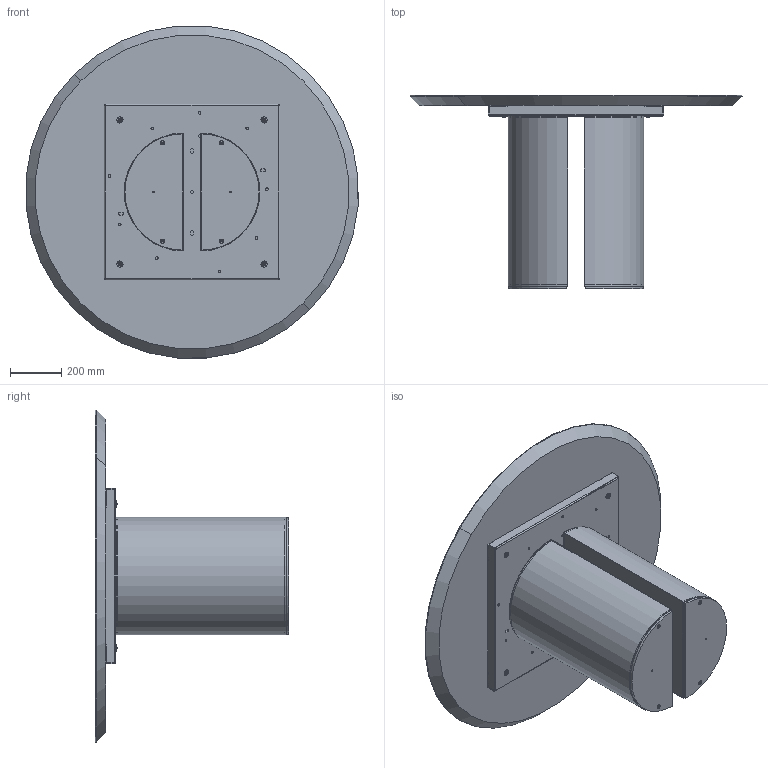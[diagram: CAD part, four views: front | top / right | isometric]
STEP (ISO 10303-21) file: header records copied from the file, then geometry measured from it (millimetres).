
FILE_DESCRIPTION (( 'STEP AP203' ), '1' );
FILE_NAME ('DR05W.STEP', '2024-08-06T12:58:46', ( '' ), ( '' ), 'SwSTEP 2.0', 'SolidWorks 2022', '' );
FILE_SCHEMA (( 'CONFIG_CONTROL_DESIGN' ));
Length unit declared in the file: millimetre
Products named in the file (13): M8xXXmm_hex_M8X20mm; DR05W; PLA000000ZOC-01-PLAI ZOCCOLO DELLA BASE; Assieme Basamento PLAI_Basamento per tavoli; M8xXXmm_M8x55mm; PLA000000BAS-00-PLAI BASE GREZZA; W1XCMXX-00-Piani Rotondi legno_D.1300; rondella M8_8X24; M8xXXmm_hex_M8X60mm; TTAV0801-02-TELAIO UNIVERSALE TONDO; TTAV0801 TELAIO UNIVERSALE TONDO-PIASTRINA; COLLO TELAIO UNIVERSALE TTAV0801 CON FERRAMENTA_MTG TOP LEGNO-MARMO-KING; TTAV0801-02-TELAIO UNIVERSALE TONDO-VASSOIO
Assembly tree (22 placements, depth 4):
  DR05W
    Assieme Basamento PLAI_Basamento per tavoli  x2
      PLA000000BAS-00-PLAI BASE GREZZA
      PLA000000ZOC-01-PLAI ZOCCOLO DELLA BASE
      M8xXXmm_hex_M8X60mm
      M8xXXmm_hex_M8X20mm
    COLLO TELAIO UNIVERSALE TTAV0801 CON FERRAMENTA_MTG TOP LEGNO-MARMO-KING
      TTAV0801-02-TELAIO UNIVERSALE TONDO
        TTAV0801-02-TELAIO UNIVERSALE TONDO-VASSOIO
        TTAV0801 TELAIO UNIVERSALE TONDO-PIASTRINA  x4
      rondella M8_8X24  x4
      M8xXXmm_M8x55mm  x4
    W1XCMXX-00-Piani Rotondi legno_D.1300
Bounding box: 1295.05 x 754 x 1295.05 mm (x, y, z)
Volume: 58195322.8 mm3; surface area: 7781861.8 mm2
Topology: 28 solids, 28 shells, 864 faces, 2142 edges, 1322 vertices
Faces by surface type: plane 406, cylinder 312, cone 90, torus 56
Entity records: 16513 total; most frequent: DIRECTION 2692, CARTESIAN_POINT 2592, ORIENTED_EDGE 2466, EDGE_CURVE 1233, AXIS2_PLACEMENT_3D 966, VERTEX_POINT 780, LINE 760, VECTOR 760
